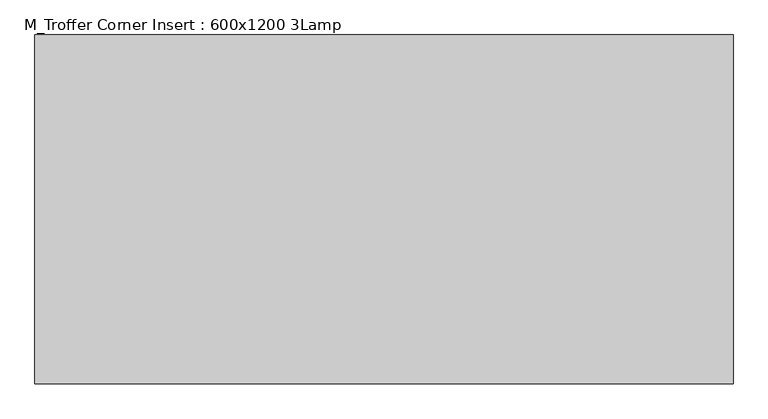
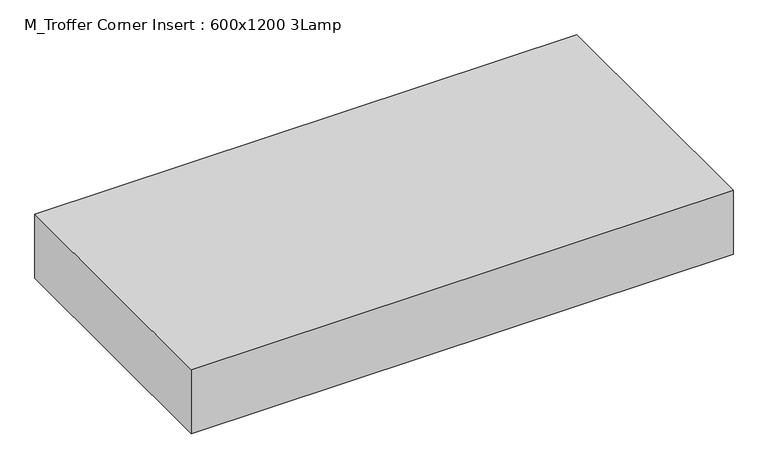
"""IFC4 building model written with IfcOpenShell, lengths in millimetres: light fixture geometry, M_Troffer Corner Insert : 600x1200 3Lamp."""

from ifc_helpers import new_model, si_unit, frame, origin, place, context, project, spatial, polyline, outline, extrude, source, transform, mapped, element, save


def m_troffer_corner_insert_600x1200_3lamp_6e7718cf(model_context):
    return source(origin(), model_context, "Body", "SweptSolid", [
        extrude(outline(polyline([(600.0, 300.0), (600.0, -300.0), (-600.0, -300.0), (-600.0, 300.0), (600.0, 300.0)])), frame((0.0, 0.0, 2438.4), z_axis=(0.0, 0.0, 1.0), x_axis=(1.0, 0.0, 0.0)), (0.0, 0.0, 1.0), 150.0),
    ])


if __name__ == "__main__":
    model = new_model("IFC4")
    model_context = context("Model", 3, world=origin())
    ifc_project = project(units=[si_unit("LENGTHUNIT", "METRE", prefix="MILLI")], contexts=[model_context])
    site = spatial("IfcSite", under=ifc_project)
    building = spatial("IfcBuilding", under=site)
    placement = place(None, origin())
    m_troffer_corner_insert_600x1200_3lamp_shape = m_troffer_corner_insert_600x1200_3lamp_6e7718cf(model_context)
    element("IfcLightFixture", 1, ObjectType="M_Troffer Corner Insert : 600x1200 3Lamp", at=placement, inside=building, context=model_context, shape_type="MappedRepresentation", body=[
        mapped(m_troffer_corner_insert_600x1200_3lamp_shape, transform((0.0, 0.0, 0.0), x_axis=(1.0, 0.0, 0.0), y_axis=(0.0, 1.0, 0.0), z_axis=(0.0, 0.0, 1.0))),
    ])
    save(model, "model.ifc")
